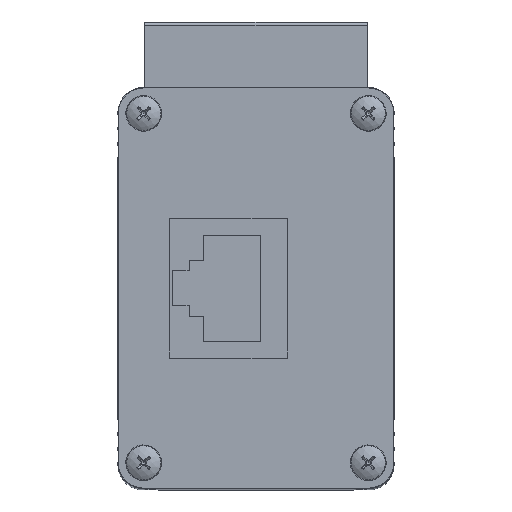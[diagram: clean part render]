
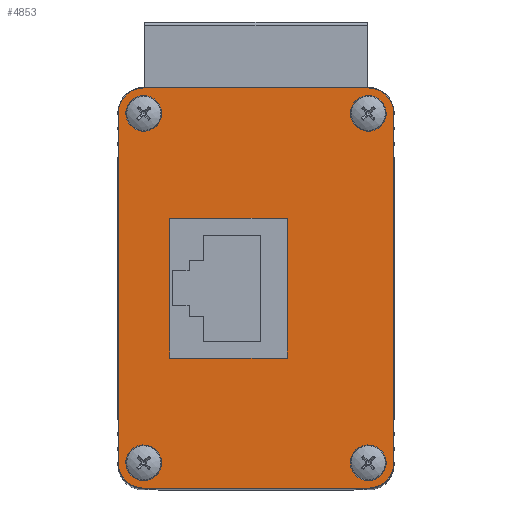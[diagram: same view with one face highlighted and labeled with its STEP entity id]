
A CAD part, top view. The second image highlights one B-rep face of the part: STEP entity #4853.
In plain terms, the highlighted planar face has unit normal (0, 0, 1).
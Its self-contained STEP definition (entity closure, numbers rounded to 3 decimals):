
#107=FACE_BOUND('',#789,.T.);
#108=FACE_BOUND('',#790,.T.);
#109=FACE_BOUND('',#791,.T.);
#110=FACE_BOUND('',#792,.T.);
#111=FACE_BOUND('',#793,.T.);
#148=CIRCLE('',#5087,1.);
#150=CIRCLE('',#5090,1.);
#152=CIRCLE('',#5093,1.);
#154=CIRCLE('',#5096,1.);
#251=CIRCLE('',#5250,2.85);
#253=CIRCLE('',#5254,2.85);
#255=CIRCLE('',#5258,2.85);
#257=CIRCLE('',#5262,2.85);
#508=FACE_OUTER_BOUND('',#788,.T.);
#788=EDGE_LOOP('',(#3825,#3826,#3827,#3828,#3829,#3830,#3831,#3832));
#789=EDGE_LOOP('',(#3833,#3834,#3835,#3836));
#790=EDGE_LOOP('',(#3837));
#791=EDGE_LOOP('',(#3838));
#792=EDGE_LOOP('',(#3839));
#793=EDGE_LOOP('',(#3840));
#1079=LINE('',#7268,#1556);
#1083=LINE('',#7276,#1560);
#1086=LINE('',#7282,#1563);
#1089=LINE('',#7287,#1566);
#1271=LINE('',#7879,#1748);
#1277=LINE('',#7893,#1754);
#1287=LINE('',#7911,#1764);
#1293=LINE('',#7924,#1770);
#1556=VECTOR('',#5809,15.7);
#1560=VECTOR('',#5815,13.2);
#1563=VECTOR('',#5820,15.7);
#1566=VECTOR('',#5825,13.2);
#1748=VECTOR('',#6351,25.2);
#1754=VECTOR('',#6365,39.2);
#1764=VECTOR('',#6383,25.2);
#1770=VECTOR('',#6397,39.2);
#2005=VERTEX_POINT('',#7266);
#2006=VERTEX_POINT('',#7267);
#2009=VERTEX_POINT('',#7275);
#2011=VERTEX_POINT('',#7281);
#2021=VERTEX_POINT('',#7316);
#2023=VERTEX_POINT('',#7321);
#2025=VERTEX_POINT('',#7326);
#2027=VERTEX_POINT('',#7331);
#2248=VERTEX_POINT('',#7871);
#2249=VERTEX_POINT('',#7873);
#2250=VERTEX_POINT('',#7878);
#2253=VERTEX_POINT('',#7887);
#2254=VERTEX_POINT('',#7892);
#2257=VERTEX_POINT('',#7905);
#2258=VERTEX_POINT('',#7910);
#2261=VERTEX_POINT('',#7919);
#2513=EDGE_CURVE('',#2005,#2006,#1079,.T.);
#2517=EDGE_CURVE('',#2006,#2009,#1083,.T.);
#2520=EDGE_CURVE('',#2009,#2011,#1086,.T.);
#2523=EDGE_CURVE('',#2011,#2005,#1089,.T.);
#2537=EDGE_CURVE('',#2021,#2021,#148,.T.);
#2539=EDGE_CURVE('',#2023,#2023,#150,.T.);
#2541=EDGE_CURVE('',#2025,#2025,#152,.T.);
#2543=EDGE_CURVE('',#2027,#2027,#154,.T.);
#2806=EDGE_CURVE('',#2249,#2248,#251,.T.);
#2809=EDGE_CURVE('',#2250,#2249,#1271,.T.);
#2814=EDGE_CURVE('',#2253,#2250,#253,.T.);
#2817=EDGE_CURVE('',#2254,#2253,#1277,.T.);
#2826=EDGE_CURVE('',#2257,#2254,#255,.T.);
#2829=EDGE_CURVE('',#2258,#2257,#1287,.T.);
#2834=EDGE_CURVE('',#2261,#2258,#257,.T.);
#2837=EDGE_CURVE('',#2248,#2261,#1293,.T.);
#3825=ORIENTED_EDGE('',*,*,#2837,.T.);
#3826=ORIENTED_EDGE('',*,*,#2834,.T.);
#3827=ORIENTED_EDGE('',*,*,#2829,.T.);
#3828=ORIENTED_EDGE('',*,*,#2826,.T.);
#3829=ORIENTED_EDGE('',*,*,#2817,.T.);
#3830=ORIENTED_EDGE('',*,*,#2814,.T.);
#3831=ORIENTED_EDGE('',*,*,#2809,.T.);
#3832=ORIENTED_EDGE('',*,*,#2806,.T.);
#3833=ORIENTED_EDGE('',*,*,#2513,.T.);
#3834=ORIENTED_EDGE('',*,*,#2517,.T.);
#3835=ORIENTED_EDGE('',*,*,#2520,.T.);
#3836=ORIENTED_EDGE('',*,*,#2523,.T.);
#3837=ORIENTED_EDGE('',*,*,#2537,.T.);
#3838=ORIENTED_EDGE('',*,*,#2539,.T.);
#3839=ORIENTED_EDGE('',*,*,#2541,.T.);
#3840=ORIENTED_EDGE('',*,*,#2543,.T.);
#4531=PLANE('',#5264);
#4853=ADVANCED_FACE('',(#508,#107,#108,#109,#110,#111),#4531,.T.);
#5087=AXIS2_PLACEMENT_3D('',#7317,#5853,#5854);
#5090=AXIS2_PLACEMENT_3D('',#7322,#5859,#5860);
#5093=AXIS2_PLACEMENT_3D('',#7327,#5865,#5866);
#5096=AXIS2_PLACEMENT_3D('',#7332,#5871,#5872);
#5250=AXIS2_PLACEMENT_3D('',#7874,#6345,#6346);
#5254=AXIS2_PLACEMENT_3D('',#7888,#6359,#6360);
#5258=AXIS2_PLACEMENT_3D('',#7906,#6377,#6378);
#5262=AXIS2_PLACEMENT_3D('',#7920,#6391,#6392);
#5264=AXIS2_PLACEMENT_3D('',#7931,#6404,#6405);
#5809=DIRECTION('',(0.,1.,0.));
#5815=DIRECTION('',(1.,0.,0.));
#5820=DIRECTION('',(0.,-1.,0.));
#5825=DIRECTION('',(-1.,0.,0.));
#5853=DIRECTION('center_axis',(0.,0.,-1.));
#5854=DIRECTION('ref_axis',(-1.,0.,0.));
#5859=DIRECTION('center_axis',(0.,0.,-1.));
#5860=DIRECTION('ref_axis',(-1.,0.,0.));
#5865=DIRECTION('center_axis',(0.,0.,-1.));
#5866=DIRECTION('ref_axis',(-1.,0.,0.));
#5871=DIRECTION('center_axis',(0.,0.,-1.));
#5872=DIRECTION('ref_axis',(-1.,0.,0.));
#6345=DIRECTION('center_axis',(0.,0.,1.));
#6346=DIRECTION('ref_axis',(0.,-1.,0.));
#6351=DIRECTION('',(-1.,0.,0.));
#6359=DIRECTION('center_axis',(0.,0.,1.));
#6360=DIRECTION('ref_axis',(-1.,0.,0.));
#6365=DIRECTION('',(0.,1.,0.));
#6377=DIRECTION('center_axis',(0.,0.,1.));
#6378=DIRECTION('ref_axis',(0.,1.,0.));
#6383=DIRECTION('',(1.,0.,0.));
#6391=DIRECTION('center_axis',(0.,0.,1.));
#6392=DIRECTION('ref_axis',(1.,0.,0.));
#6397=DIRECTION('',(0.,-1.,0.));
#6404=DIRECTION('center_axis',(0.,0.,1.));
#6405=DIRECTION('ref_axis',(1.,0.,0.));
#7266=CARTESIAN_POINT('',(-9.7,-7.85,90.));
#7267=CARTESIAN_POINT('',(-9.7,7.85,90.));
#7268=CARTESIAN_POINT('',(-9.7,3.925,90.));
#7275=CARTESIAN_POINT('',(3.5,7.85,90.));
#7276=CARTESIAN_POINT('',(1.75,7.85,90.));
#7281=CARTESIAN_POINT('',(3.5,-7.85,90.));
#7282=CARTESIAN_POINT('',(3.5,-3.925,90.));
#7287=CARTESIAN_POINT('',(-4.85,-7.85,90.));
#7316=CARTESIAN_POINT('',(-11.6,19.6,90.));
#7317=CARTESIAN_POINT('Origin',(-12.6,19.6,90.));
#7321=CARTESIAN_POINT('',(13.6,-19.6,90.));
#7322=CARTESIAN_POINT('Origin',(12.6,-19.6,90.));
#7326=CARTESIAN_POINT('',(13.6,19.6,90.));
#7327=CARTESIAN_POINT('Origin',(12.6,19.6,90.));
#7331=CARTESIAN_POINT('',(-11.6,-19.6,90.));
#7332=CARTESIAN_POINT('Origin',(-12.6,-19.6,90.));
#7871=CARTESIAN_POINT('',(-15.45,19.6,90.));
#7873=CARTESIAN_POINT('',(-12.6,22.45,90.));
#7874=CARTESIAN_POINT('Origin',(-12.6,19.6,90.));
#7878=CARTESIAN_POINT('',(12.6,22.45,90.));
#7879=CARTESIAN_POINT('',(-12.6,22.45,90.));
#7887=CARTESIAN_POINT('',(15.45,19.6,90.));
#7888=CARTESIAN_POINT('Origin',(12.6,19.6,90.));
#7892=CARTESIAN_POINT('',(15.45,-19.6,90.));
#7893=CARTESIAN_POINT('',(15.45,19.6,90.));
#7905=CARTESIAN_POINT('',(12.6,-22.45,90.));
#7906=CARTESIAN_POINT('Origin',(12.6,-19.6,90.));
#7910=CARTESIAN_POINT('',(-12.6,-22.45,90.));
#7911=CARTESIAN_POINT('',(12.6,-22.45,90.));
#7919=CARTESIAN_POINT('',(-15.45,-19.6,90.));
#7920=CARTESIAN_POINT('Origin',(-12.6,-19.6,90.));
#7924=CARTESIAN_POINT('',(-15.45,-19.6,90.));
#7931=CARTESIAN_POINT('Origin',(0.,0.,
90.));
